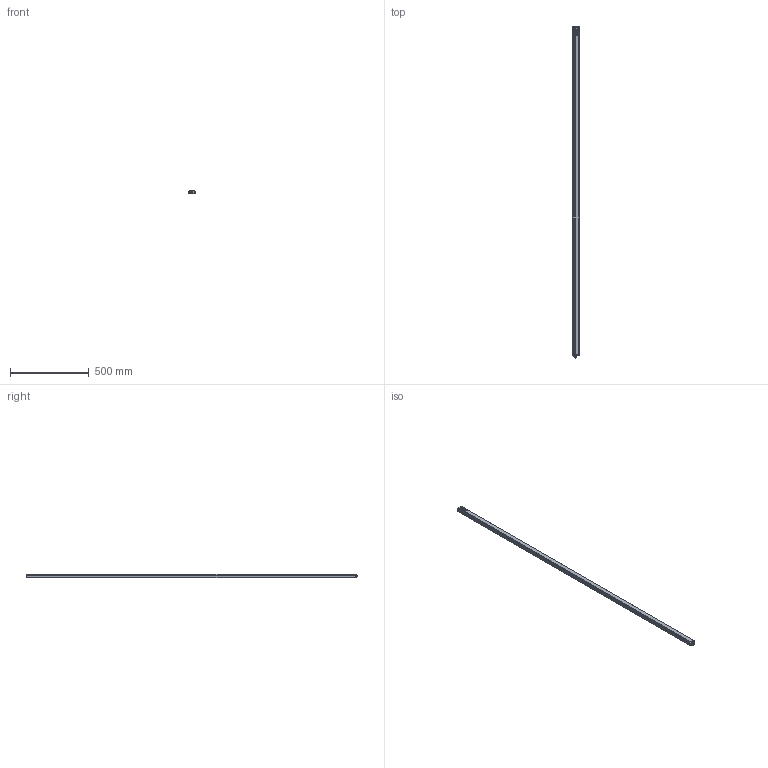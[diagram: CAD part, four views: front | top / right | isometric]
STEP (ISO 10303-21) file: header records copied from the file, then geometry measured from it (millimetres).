
FILE_DESCRIPTION(/* description */ (''),/* implementation_level */ '2;1');
FILE_NAME(/* name */ 'C:\Users\andre\SynologyDrive\Optoscan\Libreria Componenti\00 - Barriere\Barriera sorgente\Argo_2080_TX.stp',/* time_stamp */ '2021-04-22T10:30:10+02:00',/* author */ ('andre'),/* organization */ (''),/* preprocessor_version */ 'ST-DEVELOPER v18',/* originating_system */ 'Autodesk Inventor 2020',/* authorisation */ '');
FILE_SCHEMA (('AUTOMOTIVE_DESIGN { 1 0 10303 214 3 1 1 }'));
Length unit declared in the file: millimetre
Products named in the file (1): Argo_2080_TX
Bounding box: 40.5 x 2113.3 x 20.75 mm (x, y, z)
Volume: 416278.5 mm3; surface area: 548462.4 mm2
Topology: 1 solids, 1 shells, 696 faces, 1911 edges, 1225 vertices
Faces by surface type: plane 321, cylinder 195, bspline 94, torus 72, cone 8, sphere 6
Full cylindrical faces by diameter (mm): 1 x4, 2.459 x4, 2.5 x4, 3 x4, 3.5 x4, 5.5 x4, 8 x1, 10.5 x2, 11.75 x9, 15.7 x1, 17.5 x1
Entity records: 30770 total; most frequent: CARTESIAN_POINT 12670, ORIENTED_EDGE 3806, DIRECTION 3415, EDGE_CURVE 1903, VERTEX_POINT 1225, AXIS2_PLACEMENT_3D 1193, LINE 1029, VECTOR 1029
